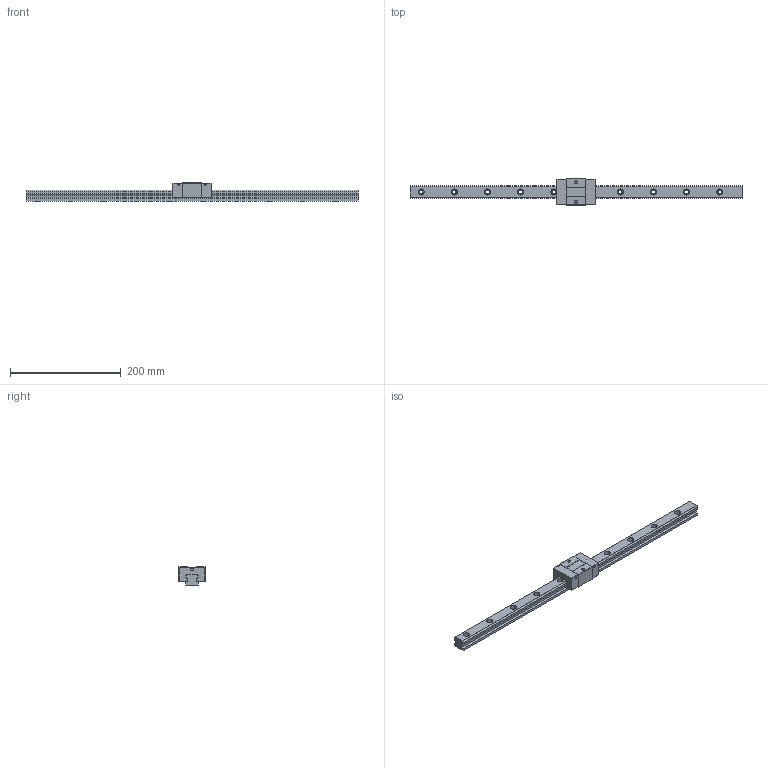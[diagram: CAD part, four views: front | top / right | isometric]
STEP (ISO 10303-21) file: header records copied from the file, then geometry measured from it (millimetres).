
FILE_DESCRIPTION (( 'STEP AP203' ), '1' );
FILE_NAME ('TRS25VS-WW.STEP', '2024-05-24T01:31:17', ( '' ), ( '' ), 'SwSTEP 2.0', 'SolidWorks 2022', '' );
FILE_SCHEMA (( 'CONFIG_CONTROL_DESIGN' ));
Length unit declared in the file: millimetre
Products named in the file (1): TRS25VS-WW
Bounding box: 600 x 48 x 33 mm (x, y, z)
Volume: 301342.1 mm3; surface area: 73790.8 mm2
Topology: 2 solids, 2 shells, 186 faces, 484 edges, 320 vertices
Faces by surface type: plane 94, cylinder 92
Entity records: 5863 total; most frequent: DIRECTION 1042, CARTESIAN_POINT 991, ORIENTED_EDGE 968, EDGE_CURVE 484, AXIS2_PLACEMENT_3D 371, VERTEX_POINT 320, LINE 300, VECTOR 300
